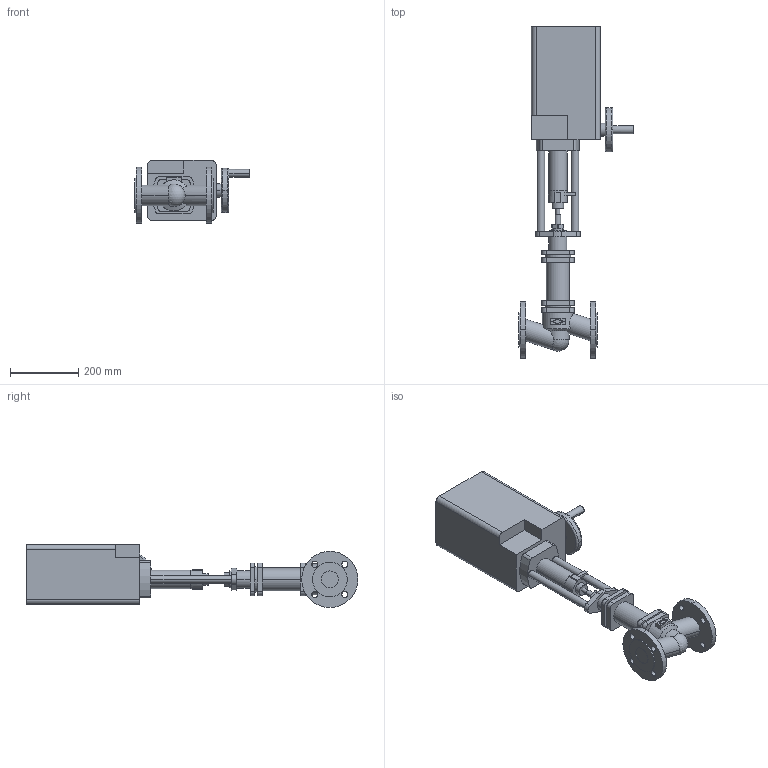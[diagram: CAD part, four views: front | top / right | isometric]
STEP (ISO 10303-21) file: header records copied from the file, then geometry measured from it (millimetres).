
FILE_DESCRIPTION( ( '' ), '1' );
FILE_NAME( 'F:/DE-SHS/TB/OR/04-Sonstiges/daten/files_3d/441-PN16-PREMIO/c000002070.stp', '2013-06-20T10:44:04', ( '' ), ( '' ), ' ', ' ', ' ' );
FILE_SCHEMA( ( 'CONFIG_CONTROL_DESIGN' ) );
Length unit declared in the file: millimetre
Products named in the file (2): 1; 2
Bounding box: 336.5 x 974 x 185 mm (x, y, z)
Volume: 15608703 mm3; surface area: 693202 mm2
Topology: 2 solids, 2 shells, 214 faces, 534 edges, 355 vertices
Faces by surface type: cylinder 104, plane 103, torus 4, cone 2, sphere 1
Entity records: 7040 total; most frequent: CARTESIAN_POINT 1591, DIRECTION 1186, ORIENTED_EDGE 1064, EDGE_CURVE 532, AXIS2_PLACEMENT_3D 452, VERTEX_POINT 355, LINE 282, VECTOR 282
